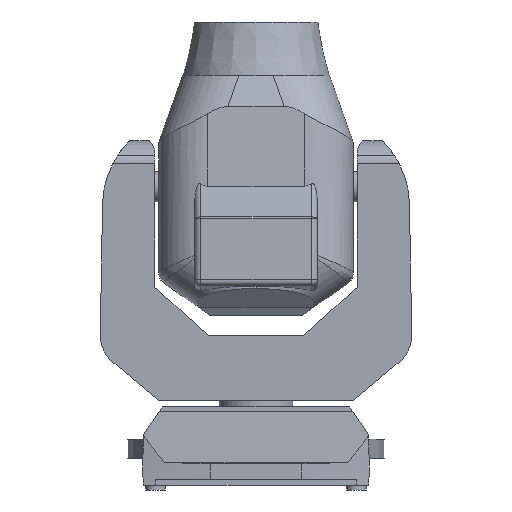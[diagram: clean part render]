
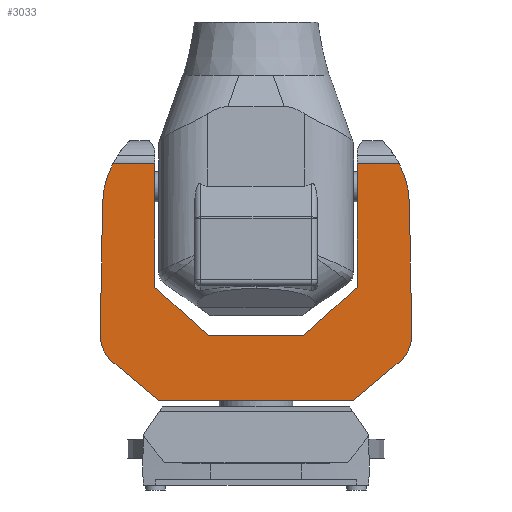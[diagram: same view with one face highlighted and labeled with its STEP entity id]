
A CAD part, left-side view. The second image highlights one B-rep face of the part: STEP entity #3033.
In plain terms, the highlighted planar face has unit normal (-1, 0, 0).
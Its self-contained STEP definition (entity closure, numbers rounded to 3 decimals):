
#138=PLANE('',#3318);
#380=LINE('',#4837,#612);
#381=LINE('',#4846,#613);
#385=LINE('',#4917,#617);
#386=LINE('',#4919,#618);
#387=LINE('',#4921,#619);
#388=LINE('',#4923,#620);
#389=LINE('',#4925,#621);
#390=LINE('',#4928,#622);
#391=LINE('',#4932,#623);
#392=LINE('',#4934,#624);
#393=LINE('',#4936,#625);
#394=LINE('',#4940,#626);
#612=VECTOR('',#3902,1000.);
#613=VECTOR('',#3905,1000.);
#617=VECTOR('',#3929,1000.);
#618=VECTOR('',#3930,1000.);
#619=VECTOR('',#3931,1000.);
#620=VECTOR('',#3932,1000.);
#621=VECTOR('',#3933,1000.);
#622=VECTOR('',#3936,1000.);
#623=VECTOR('',#3939,1000.);
#624=VECTOR('',#3940,1000.);
#625=VECTOR('',#3941,1000.);
#626=VECTOR('',#3944,1000.);
#1089=ORIENTED_EDGE('',*,*,#1799,.T.);
#1090=ORIENTED_EDGE('',*,*,#1815,.T.);
#1091=ORIENTED_EDGE('',*,*,#1816,.T.);
#1092=ORIENTED_EDGE('',*,*,#1817,.T.);
#1093=ORIENTED_EDGE('',*,*,#1818,.T.);
#1094=ORIENTED_EDGE('',*,*,#1819,.T.);
#1095=ORIENTED_EDGE('',*,*,#1801,.T.);
#1096=ORIENTED_EDGE('',*,*,#1820,.T.);
#1097=ORIENTED_EDGE('',*,*,#1821,.T.);
#1098=ORIENTED_EDGE('',*,*,#1822,.T.);
#1099=ORIENTED_EDGE('',*,*,#1823,.T.);
#1100=ORIENTED_EDGE('',*,*,#1824,.T.);
#1101=ORIENTED_EDGE('',*,*,#1825,.T.);
#1102=ORIENTED_EDGE('',*,*,#1826,.T.);
#1103=ORIENTED_EDGE('',*,*,#1827,.T.);
#1104=ORIENTED_EDGE('',*,*,#1828,.T.);
#1799=EDGE_CURVE('',#2198,#2197,#380,.T.);
#1801=EDGE_CURVE('',#2199,#2200,#381,.T.);
#1815=EDGE_CURVE('',#2197,#2211,#385,.T.);
#1816=EDGE_CURVE('',#2211,#2212,#386,.T.);
#1817=EDGE_CURVE('',#2212,#2213,#387,.T.);
#1818=EDGE_CURVE('',#2213,#2214,#388,.T.);
#1819=EDGE_CURVE('',#2214,#2199,#389,.T.);
#1820=EDGE_CURVE('',#2200,#2215,#2417,.T.);
#1821=EDGE_CURVE('',#2215,#2216,#390,.T.);
#1822=EDGE_CURVE('',#2216,#2217,#2418,.T.);
#1823=EDGE_CURVE('',#2217,#2218,#391,.T.);
#1824=EDGE_CURVE('',#2218,#2219,#392,.T.);
#1825=EDGE_CURVE('',#2219,#2220,#393,.T.);
#1826=EDGE_CURVE('',#2220,#2221,#2419,.T.);
#1827=EDGE_CURVE('',#2221,#2222,#394,.T.);
#1828=EDGE_CURVE('',#2222,#2198,#2420,.T.);
#2197=VERTEX_POINT('',#4836);
#2198=VERTEX_POINT('',#4838);
#2199=VERTEX_POINT('',#4847);
#2200=VERTEX_POINT('',#4848);
#2211=VERTEX_POINT('',#4918);
#2212=VERTEX_POINT('',#4920);
#2213=VERTEX_POINT('',#4922);
#2214=VERTEX_POINT('',#4924);
#2215=VERTEX_POINT('',#4927);
#2216=VERTEX_POINT('',#4929);
#2217=VERTEX_POINT('',#4931);
#2218=VERTEX_POINT('',#4933);
#2219=VERTEX_POINT('',#4935);
#2220=VERTEX_POINT('',#4937);
#2221=VERTEX_POINT('',#4939);
#2222=VERTEX_POINT('',#4941);
#2417=CIRCLE('',#3319,146.551);
#2418=CIRCLE('',#3320,61.01);
#2419=CIRCLE('',#3321,61.01);
#2420=CIRCLE('',#3322,146.551);
#2559=EDGE_LOOP('',(#1089,#1090,#1091,#1092,#1093,#1094,#1095,#1096,#1097,
#1098,#1099,#1100,#1101,#1102,#1103,#1104));
#2771=FACE_BOUND('',#2559,.T.);
#3033=ADVANCED_FACE('',(#2771),#138,.T.);
#3318=AXIS2_PLACEMENT_3D('',#4916,#3927,#3928);
#3319=AXIS2_PLACEMENT_3D('',#4926,#3934,#3935);
#3320=AXIS2_PLACEMENT_3D('',#4930,#3937,#3938);
#3321=AXIS2_PLACEMENT_3D('',#4938,#3942,#3943);
#3322=AXIS2_PLACEMENT_3D('',#4942,#3945,#3946);
#3902=DIRECTION('',(0.,1.,0.));
#3905=DIRECTION('',(0.,1.,0.));
#3927=DIRECTION('',(-1.,0.,0.));
#3928=DIRECTION('',(0.,0.,1.));
#3929=DIRECTION('',(0.,0.,-1.));
#3930=DIRECTION('',(0.,0.741,-0.672));
#3931=DIRECTION('',(0.,1.,0.));
#3932=DIRECTION('',(0.,0.741,0.672));
#3933=DIRECTION('',(0.,0.,1.));
#3934=DIRECTION('',(-1.,0.,0.));
#3935=DIRECTION('',(0.,0.,1.));
#3936=DIRECTION('',(0.,0.017,-1.));
#3937=DIRECTION('',(-1.,0.,0.));
#3938=DIRECTION('',(0.,0.,1.));
#3939=DIRECTION('',(0.,-0.764,-0.645));
#3940=DIRECTION('',(0.,-1.,0.));
#3941=DIRECTION('',(0.,-0.764,0.645));
#3942=DIRECTION('',(-1.,0.,0.));
#3943=DIRECTION('',(0.,0.,1.));
#3944=DIRECTION('',(0.,0.017,1.));
#3945=DIRECTION('',(-1.,0.,0.));
#3946=DIRECTION('',(0.,0.,1.));
#4836=CARTESIAN_POINT('',(-62.056,-164.534,498.116));
#4837=CARTESIAN_POINT('',(-62.056,-297.658,498.116));
#4838=CARTESIAN_POINT('',(-62.056,-233.059,498.116));
#4846=CARTESIAN_POINT('',(-62.056,-297.658,498.116));
#4847=CARTESIAN_POINT('',(-62.056,164.534,498.116));
#4848=CARTESIAN_POINT('',(-62.056,233.059,498.116));
#4916=CARTESIAN_POINT('',(-62.056,-297.658,498.116));
#4917=CARTESIAN_POINT('',(-62.056,-164.534,498.116));
#4918=CARTESIAN_POINT('',(-62.056,-164.534,297.553));
#4919=CARTESIAN_POINT('',(-62.056,-337.396,454.291));
#4920=CARTESIAN_POINT('',(-62.056,-77.695,218.815));
#4921=CARTESIAN_POINT('',(-62.056,-297.658,218.815));
#4922=CARTESIAN_POINT('',(-62.056,77.695,218.815));
#4923=CARTESIAN_POINT('',(-62.056,10.683,158.054));
#4924=CARTESIAN_POINT('',(-62.056,164.534,297.553));
#4925=CARTESIAN_POINT('',(-62.056,164.534,498.116));
#4926=CARTESIAN_POINT('',(-62.056,103.109,430.366));
#4927=CARTESIAN_POINT('',(-62.056,249.637,432.925));
#4928=CARTESIAN_POINT('',(-62.056,248.332,507.651));
#4929=CARTESIAN_POINT('',(-62.056,253.337,221.066));
#4930=CARTESIAN_POINT('',(-62.056,192.336,220.001));
#4931=CARTESIAN_POINT('',(-62.056,239.185,180.918));
#4932=CARTESIAN_POINT('',(-62.056,82.189,48.333));
#4933=CARTESIAN_POINT('',(-62.056,159.15,113.328));
#4934=CARTESIAN_POINT('',(-62.056,-297.658,113.328));
#4935=CARTESIAN_POINT('',(-62.056,-159.15,113.328));
#4936=CARTESIAN_POINT('',(-62.056,-429.677,341.791));
#4937=CARTESIAN_POINT('',(-62.056,-239.185,180.918));
#4938=CARTESIAN_POINT('',(-62.056,-192.336,220.001));
#4939=CARTESIAN_POINT('',(-62.056,-253.337,221.066));
#4940=CARTESIAN_POINT('',(-62.056,-248.514,497.258));
#4941=CARTESIAN_POINT('',(-62.056,-249.637,432.925));
#4942=CARTESIAN_POINT('',(-62.056,-103.109,430.366));
